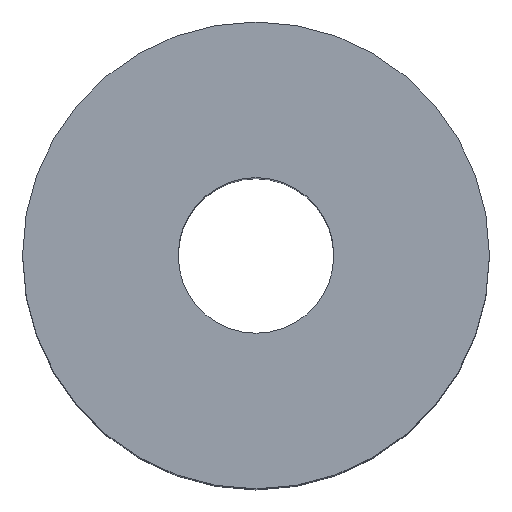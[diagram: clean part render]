
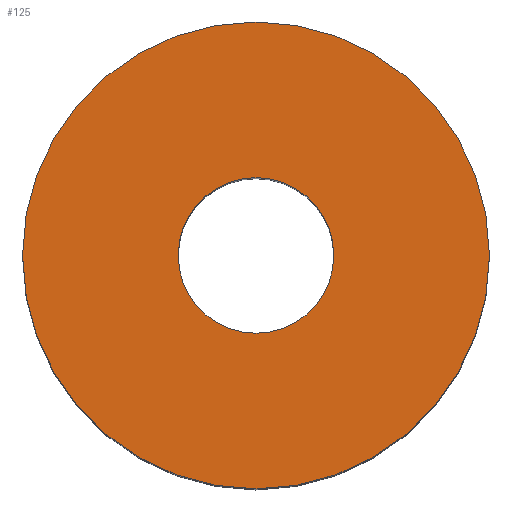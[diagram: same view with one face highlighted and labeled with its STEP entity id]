
A CAD part, top view. The second image highlights one B-rep face of the part: STEP entity #125.
In plain terms, the highlighted planar face has unit normal (0, 0, 1).
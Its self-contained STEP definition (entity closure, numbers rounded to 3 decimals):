
#125=ADVANCED_FACE('',(#137,#138),#135,.T.);
#135=PLANE('',#244);
#137=FACE_BOUND('',#141,.T.);
#138=FACE_BOUND('',#142,.T.);
#141=EDGE_LOOP('',(#153,#154));
#142=EDGE_LOOP('',(#155,#156));
#153=ORIENTED_EDGE('',*,*,#205,.T.);
#154=ORIENTED_EDGE('',*,*,#206,.T.);
#155=ORIENTED_EDGE('',*,*,#207,.F.);
#156=ORIENTED_EDGE('',*,*,#208,.F.);
#193=VERTEX_POINT('',#322);
#194=VERTEX_POINT('',#323);
#195=VERTEX_POINT('',#326);
#196=VERTEX_POINT('',#327);
#205=EDGE_CURVE('',#193,#194,#225,.T.);
#206=EDGE_CURVE('',#194,#193,#226,.T.);
#207=EDGE_CURVE('',#195,#196,#227,.T.);
#208=EDGE_CURVE('',#196,#195,#228,.T.);
#225=CIRCLE('',#240,30.);
#226=CIRCLE('',#241,30.);
#227=CIRCLE('',#242,10.);
#228=CIRCLE('',#243,10.);
#240=AXIS2_PLACEMENT_3D('',#321,#266,#267);
#241=AXIS2_PLACEMENT_3D('',#324,#268,#269);
#242=AXIS2_PLACEMENT_3D('',#325,#270,#271);
#243=AXIS2_PLACEMENT_3D('',#328,#272,#273);
#244=AXIS2_PLACEMENT_3D('',#329,#274,#275);
#266=DIRECTION('',(0.,0.,1.));
#267=DIRECTION('',(0.,1.,0.));
#268=DIRECTION('',(0.,0.,1.));
#269=DIRECTION('',(0.,-1.,0.));
#270=DIRECTION('',(0.,0.,1.));
#271=DIRECTION('',(0.,-1.,0.));
#272=DIRECTION('',(0.,0.,1.));
#273=DIRECTION('',(0.,1.,0.));
#274=DIRECTION('',(0.,0.,1.));
#275=DIRECTION('',(0.,1.,0.));
#321=CARTESIAN_POINT('',(0.,0.,82.));
#322=CARTESIAN_POINT('',(-30.,0.,82.));
#323=CARTESIAN_POINT('',(30.,0.,82.));
#324=CARTESIAN_POINT('',(0.,0.,82.));
#325=CARTESIAN_POINT('',(0.,0.,82.));
#326=CARTESIAN_POINT('',(10.,0.,82.));
#327=CARTESIAN_POINT('',(-10.,0.,82.));
#328=CARTESIAN_POINT('',(0.,0.,82.));
#329=CARTESIAN_POINT('',(0.,0.,82.));
